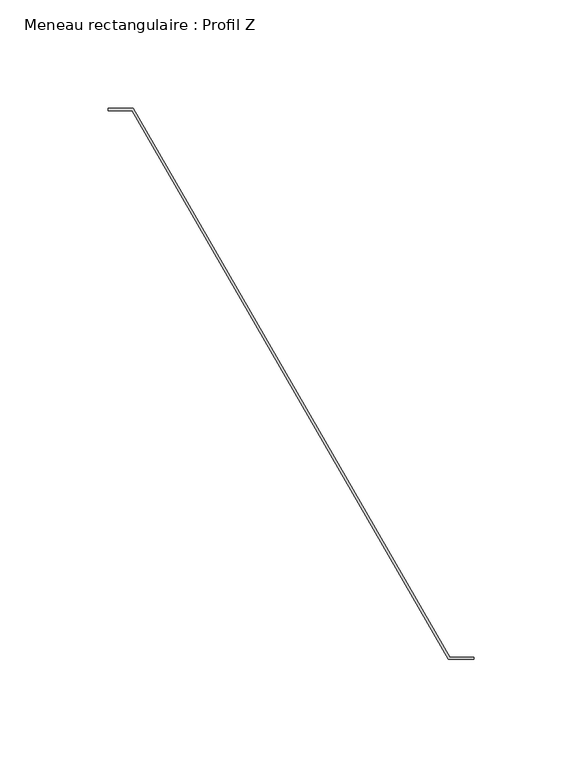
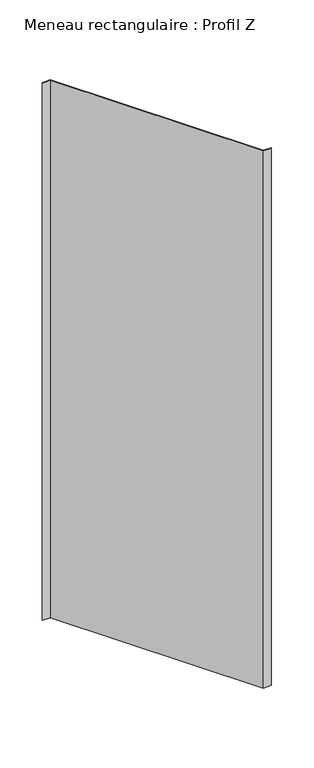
"""IFC4 building model written with IfcOpenShell, lengths in millimetres: member geometry, Meneau rectangulaire : Profil Z."""

from ifc_helpers import new_model, si_unit, frame, origin, place, context, project, spatial, polyline, outline, extrude, source, transform, mapped, element, save


def meneau_rectangulaire_profil_z_5f85b3a2(model_context):
    return source(origin(), model_context, "Body", "SweptSolid", [
        extrude(outline(polyline([(72.7461339, -87.0), (-73.3234842, 166.0), (-84.2931393, 166.0), (-84.2931393, 167.0), (-72.7461339, 167.0), (73.3234842, -86.0), (84.2931393, -86.0), (84.2931393, -87.0), (72.7461339, -87.0)])), frame((0.0, 0.0, -780.3), z_axis=(0.0, 0.0, 1.0), x_axis=(1.0, 0.0, 0.0)), (0.0, 0.0, 1.0), 780.3),
    ])


if __name__ == "__main__":
    model = new_model("IFC4")
    model_context = context("Model", 3, world=origin())
    ifc_project = project(units=[si_unit("LENGTHUNIT", "METRE", prefix="MILLI")], contexts=[model_context])
    site = spatial("IfcSite", under=ifc_project)
    building = spatial("IfcBuilding", under=site)
    placement = place(None, origin())
    meneau_rectangulaire_profil_z_shape = meneau_rectangulaire_profil_z_5f85b3a2(model_context)
    element("IfcMember", 1, ObjectType="Meneau rectangulaire : Profil Z", at=placement, inside=building, context=model_context, shape_type="MappedRepresentation", body=[
        mapped(meneau_rectangulaire_profil_z_shape, transform((0.0, 0.0, 0.0), x_axis=(1.0, 0.0, 0.0), y_axis=(0.0, 1.0, 0.0), z_axis=(0.0, 0.0, 1.0))),
    ])
    save(model, "model.ifc")
